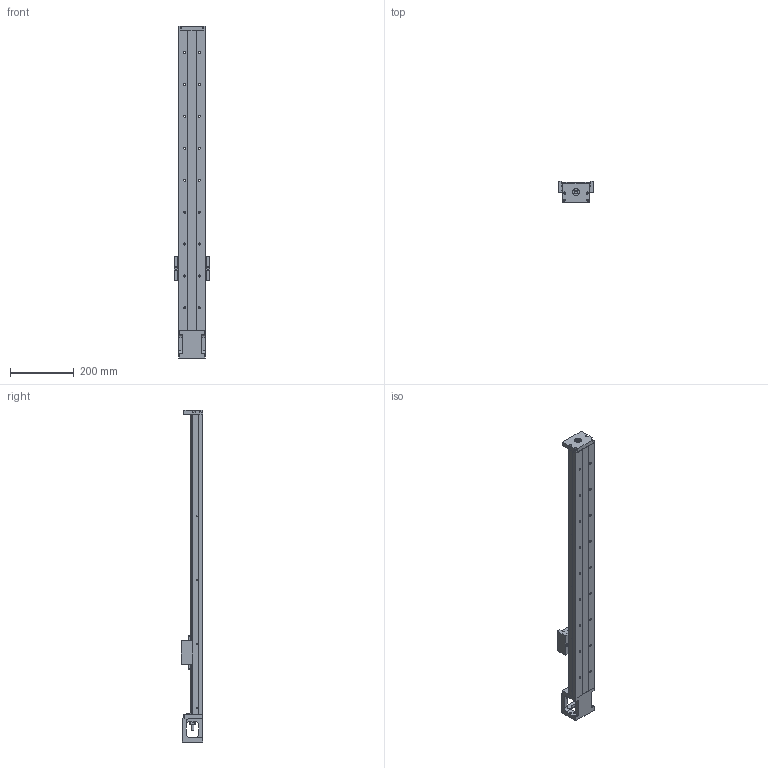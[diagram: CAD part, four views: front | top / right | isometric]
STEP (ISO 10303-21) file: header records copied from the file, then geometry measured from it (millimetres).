
FILE_DESCRIPTION(/* description */ (''),/* implementation_level */ '2;1');
FILE_NAME(/* name */ '46L-940.stp',/* time_stamp */ '2016-12-20T14:01:58+08:00',/* author */ (''),/* organization */ (''),/* preprocessor_version */ 'ST-DEVELOPER v11',/* originating_system */ 'SIEMENS UGS NX 6.0',/* authorisation */ '');
FILE_SCHEMA (('AUTOMOTIVE_DESIGN { 1 0 10303 214 1 1 1 1 }'));
Length unit declared in the file: millimetre
Products named in the file (1): model4
Bounding box: 112 x 68 x 1040 mm (x, y, z)
Volume: 2187795.3 mm3; surface area: 445324.4 mm2
Topology: 6 solids, 14 shells, 715 faces, 1877 edges, 1230 vertices
Faces by surface type: plane 332, cylinder 261, cone 61, bspline 53, torus 8
Full cylindrical faces by diameter (mm): 2.11 x4, 2.15 x8, 2.42 x8, 2.5 x4, 3 x6, 3.2 x4, 3.3 x12, 3.4 x4, 4.2 x4, 4.5 x8, 5 x14, 6 x8, 6.35 x2, 6.6 x18, 8 x1, 9.6 x1, 10 x3, 11 x18, 12 x1, 14.95 x2, 15 x1, 16 x2, 22 x3, 27.5 x1, 44 x1, 50 x1
Entity records: 32102 total; most frequent: CARTESIAN_POINT 13231, ORIENTED_EDGE 3214, DIRECTION 3123, EDGE_CURVE 1607, AXIS2_PLACEMENT_3D 1156, VERTEX_POINT 1152, EDGE_LOOP 1019, LINE 811
